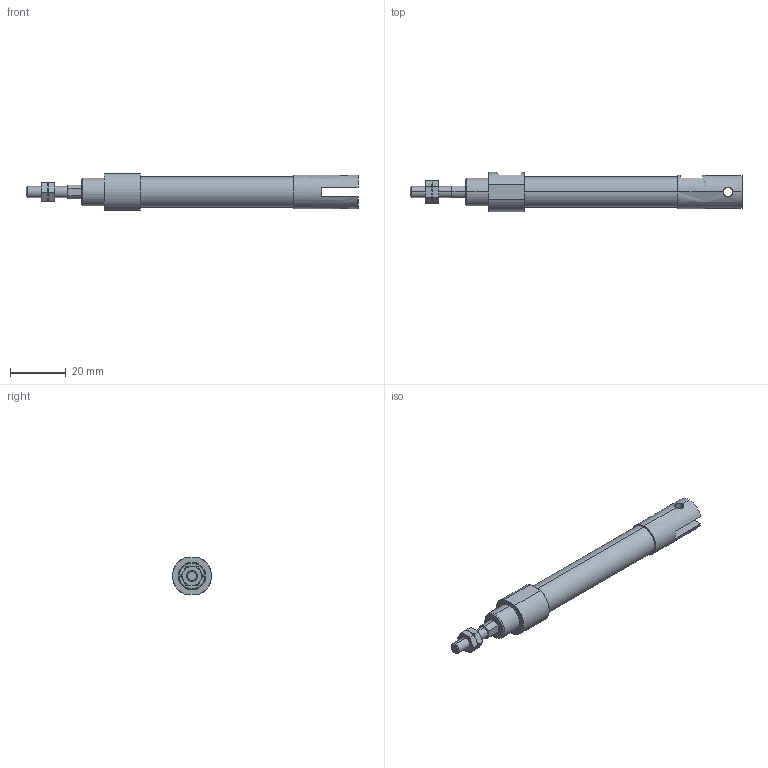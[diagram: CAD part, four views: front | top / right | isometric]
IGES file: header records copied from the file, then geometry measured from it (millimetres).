
Start section: SolidWorks IGES file using analytic representation for surfaces
Global section: file name: C:\Users\Toshiba\Desktop\ZGU2-10-30-W.IGS; native system: SolidWorks 2014; preprocessor: SolidWorks 2014; author: Toshiba; date: 160331.085244; units: millimetre
Bounding box: 119 x 14 x 13 mm (x, y, z)
Surface area: 4955.6 mm2 (no closed solid volume)
Topology: 0 solids, 0 shells, 94 faces, 1442 edges, 1438 vertices
Faces by surface type: bspline 61, revolution 33
